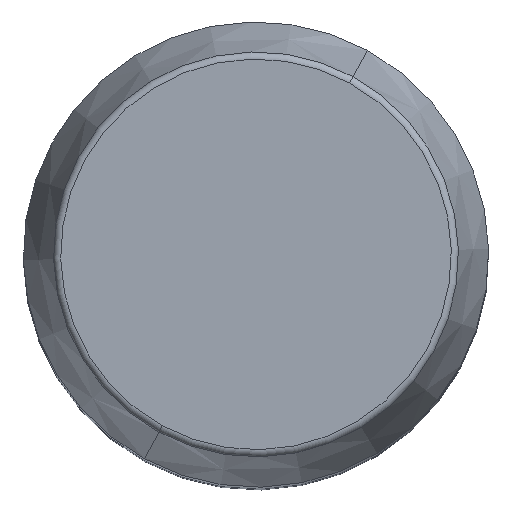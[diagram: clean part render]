
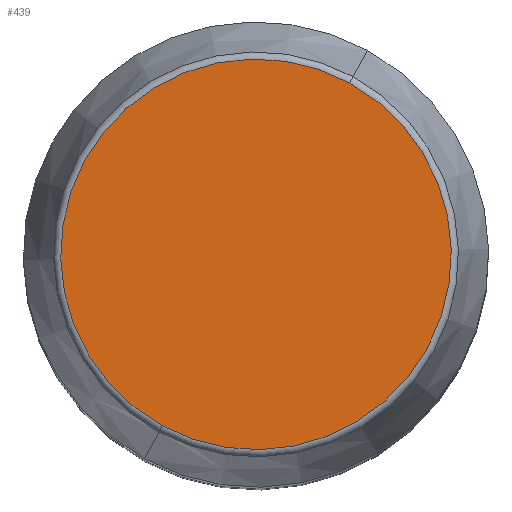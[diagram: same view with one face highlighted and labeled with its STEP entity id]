
A CAD part, top view. The second image highlights one B-rep face of the part: STEP entity #439.
In plain terms, the highlighted planar face has unit normal (0, 0, 1).
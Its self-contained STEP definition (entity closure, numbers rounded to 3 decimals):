
#391=CARTESIAN_POINT('Vertex',(-12.679,-23.208,250.)) ;
#394=CARTESIAN_POINT('Axis2P3D Location',(0.,0.,250.)) ;
#398=CARTESIAN_POINT('Vertex',(12.679,23.208,250.)) ;
#418=CARTESIAN_POINT('Axis2P3D Location',(0.,0.,250.)) ;
#430=CARTESIAN_POINT('Axis2P3D Location',(0.,26.445,250.)) ;
#395=DIRECTION('Axis2P3D Direction',(0.,0.,-1.)) ;
#419=DIRECTION('Axis2P3D Direction',(0.,0.,-1.)) ;
#431=DIRECTION('Axis2P3D Direction',(0.,0.,-1.)) ;
#432=DIRECTION('Axis2P3D XDirection',(1.,0.,0.)) ;
#396=AXIS2_PLACEMENT_3D('Circle Axis2P3D',#394,#395,$) ;
#420=AXIS2_PLACEMENT_3D('Circle Axis2P3D',#418,#419,$) ;
#433=AXIS2_PLACEMENT_3D('Plane Axis2P3D',#430,#431,#432) ;
#436=ORIENTED_EDGE('',*,*,#422,.F.) ;
#437=ORIENTED_EDGE('',*,*,#400,.F.) ;
#439=ADVANCED_FACE('PartBody',(#438),#434,.F.) ;
#397=CIRCLE('generated circle',#396,26.445) ;
#421=CIRCLE('generated circle',#420,26.445) ;
#400=EDGE_CURVE('',#392,#399,#397,.T.) ;
#422=EDGE_CURVE('',#399,#392,#421,.T.) ;
#435=EDGE_LOOP('',(#436,#437)) ;
#438=FACE_OUTER_BOUND('',#435,.T.) ;
#434=PLANE('Plane',#433) ;
#392=VERTEX_POINT('',#391) ;
#399=VERTEX_POINT('',#398) ;
